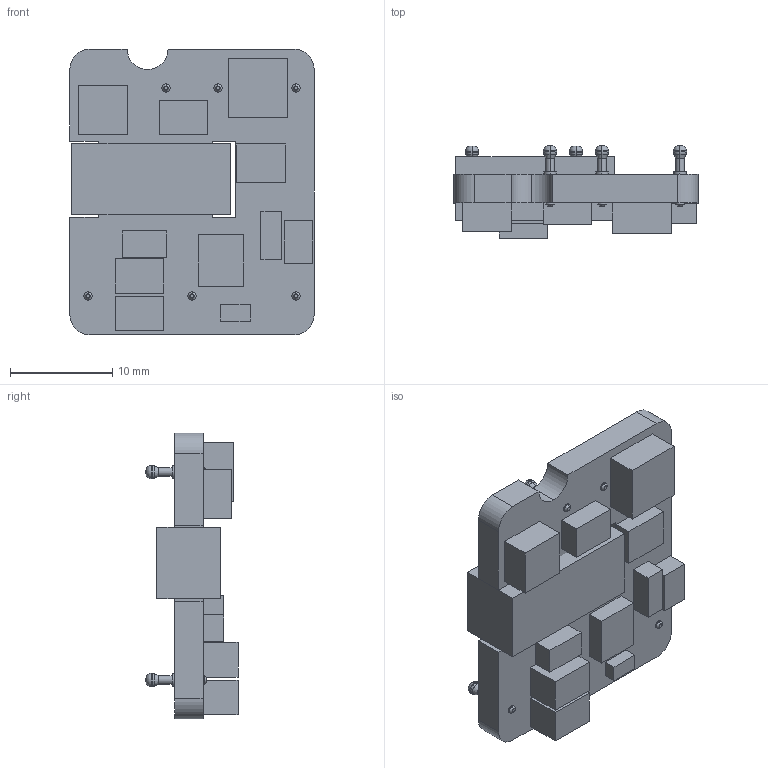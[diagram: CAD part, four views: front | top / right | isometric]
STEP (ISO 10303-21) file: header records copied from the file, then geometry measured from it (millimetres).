
FILE_DESCRIPTION (( 'STEP AP214' ), '1' );
FILE_NAME ('TON 15SM.STEP', '2018-11-06T00:12:09', ( 'user' ), ( '' ), 'SwSTEP 2.0', 'SolidWorks 2016', '' );
FILE_SCHEMA (( 'AUTOMOTIVE_DESIGN' ));
Length unit declared in the file: millimetre
Products named in the file (1): TON 15SM
Bounding box: 23.88 x 9 x 27.94 mm (x, y, z)
Volume: 2862 mm3; surface area: 2571.5 mm2
Topology: 2 solids, 2 shells, 196 faces, 429 edges, 266 vertices
Faces by surface type: plane 94, cylinder 54, cone 24, torus 24
Entity records: 7280 total; most frequent: DIRECTION 991, CARTESIAN_POINT 892, ORIENTED_EDGE 858, EDGE_CURVE 429, AXIS2_PLACEMENT_3D 365, VERTEX_POINT 266, LINE 261, VECTOR 261
